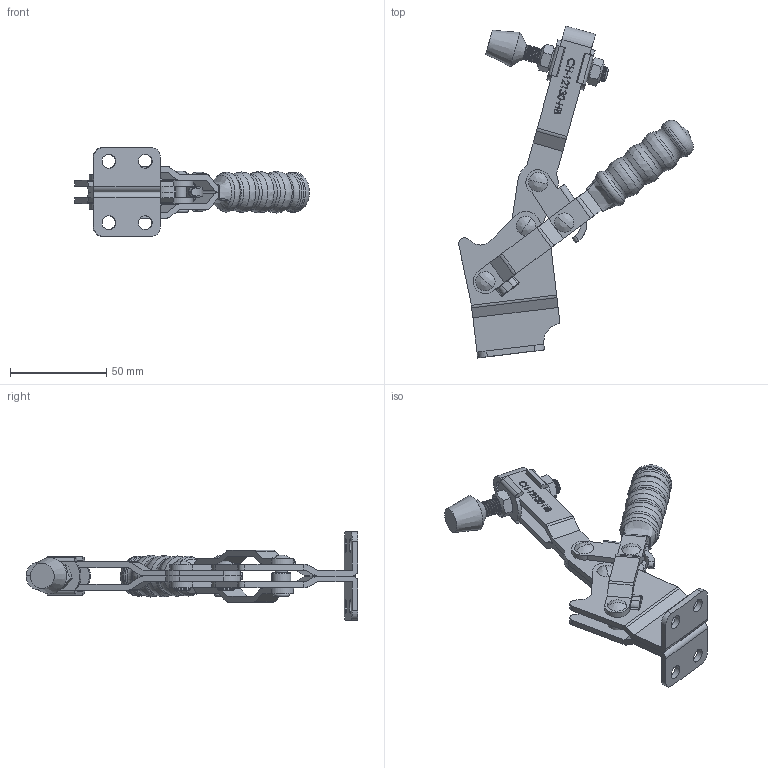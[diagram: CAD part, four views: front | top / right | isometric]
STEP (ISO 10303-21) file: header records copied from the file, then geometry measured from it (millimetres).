
FILE_DESCRIPTION(/* description */ ('STEP AP203'),/* implementation_level */ '2;1');
FILE_NAME(/* name */ 'D:\Vault_2016\Projekty\NASZ KATALOG\CLAMPTEK\STRONA\Vertical toggle clamp\CH-12130-HB\CH-12130-HB_OTWARTY.stp',/* time_stamp */ '2019-01-18T12:40:04+01:00',/* author */ ('CADENGINEERING4'),/* organization */ ('Î¢ÈíÖÐ¹ú'),/* preprocessor_version */ 'ST-DEVELOPER v17.2',/* originating_system */ 'Autodesk Inventor 2019',/* authorisation */ '');
FILE_SCHEMA (('AUTOMOTIVE_DESIGN { 1 0 10303 214 3 1 1 }'));
Products named in the file (12): CH-12130-HB_OTWARTY; CH-12130-HB-01 FLANGED BASE; CH-12130-HB-02 U-BAR; CH-12130-03 STRAIGHT HANDLE; CH-12130-07; CH-FC-56212 SPINDLE SUPPLIED; CH-12130-05; CH-12130-04 CONNECTING-PLATE; CH-12130-06; CH-12130-08; CH-FW-516; CH-FC-56212 Nut
Assembly tree (15 placements, depth 2):
  CH-12130-HB_OTWARTY
    CH-12130-HB-01 FLANGED BASE
    CH-12130-HB-02 U-BAR
    CH-12130-03 STRAIGHT HANDLE
    CH-12130-07
    CH-FC-56212 SPINDLE SUPPLIED
    CH-12130-05
    CH-FC-56212 Nut  x2
    CH-12130-08  x2
    CH-12130-06  x2
    CH-12130-04 CONNECTING-PLATE
    CH-FW-516  x2
Bounding box: 121.76 x 172.14 x 46 mm (x, y, z)
Volume: 67806.3 mm3; surface area: 51463.4 mm2
Topology: 19 solids, 19 shells, 766 faces, 2122 edges, 1422 vertices
Faces by surface type: plane 346, bspline 202, cylinder 163, cone 30, torus 25
Full cylindrical faces by diameter (mm): 2.546 x1, 2.887 x1, 6.3 x6, 6.4 x20, 6.8 x1, 7.2 x4, 7.92 x32, 8.1 x2, 8.4 x2, 10 x1, 20.847 x1
Entity records: 48926 total; most frequent: CARTESIAN_POINT 31339, ORIENTED_EDGE 3936, DIRECTION 2939, EDGE_CURVE 1968, VERTEX_POINT 1326, LINE 1093, VECTOR 1093, AXIS2_PLACEMENT_3D 923
